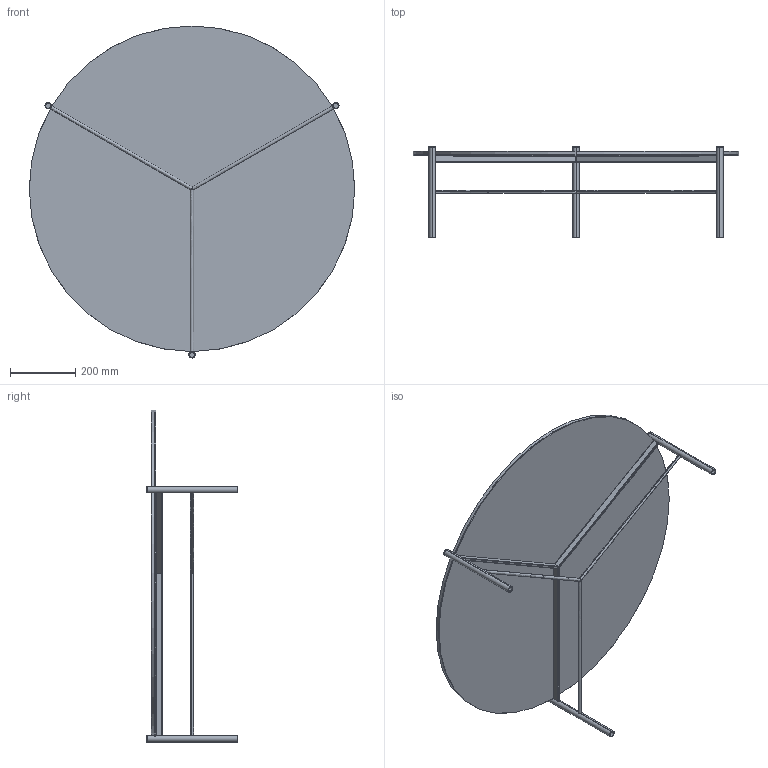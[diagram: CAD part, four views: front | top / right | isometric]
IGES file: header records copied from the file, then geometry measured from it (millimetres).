
Start section: SolidWorks IGES file using analytic representation for surfaces
Global section: file name: Y:\eforma\TECNICO\SOLIDWORKS\E-FORMA\2-TAVOLINI\JACK\02 parts\J103G.IGS; native system: SolidWorks 2022; preprocessor: SolidWorks 2022; author: eforma.tech; date: 240806.133237; units: millimetre
Bounding box: 1000 x 279 x 1020.07 mm (x, y, z)
Volume: 10423880.9 mm3; surface area: 3515526.1 mm2
Topology: 14 solids, 14 shells, 125 faces, 293 edges, 194 vertices
Faces by surface type: revolution 73, plane 52
